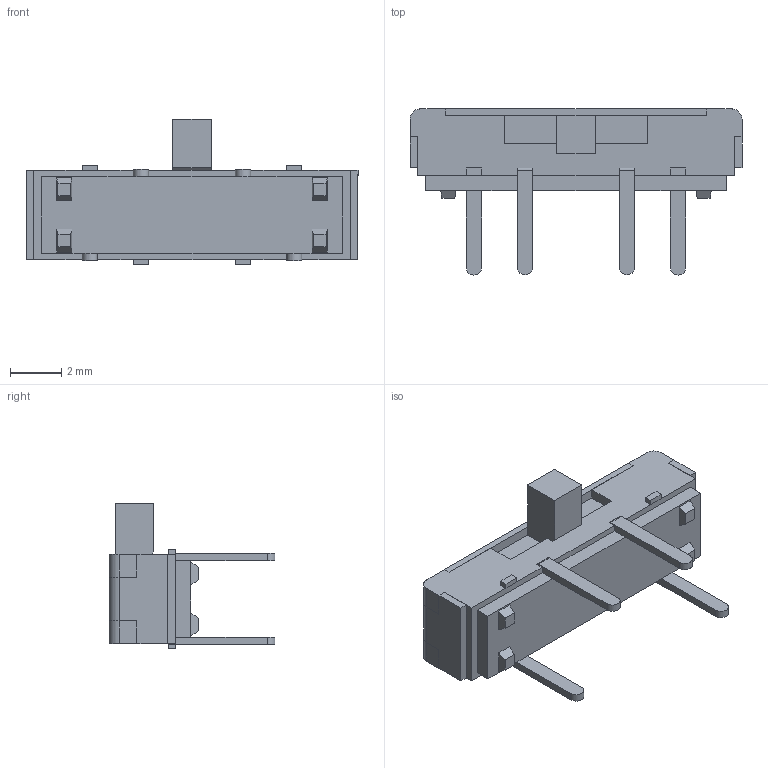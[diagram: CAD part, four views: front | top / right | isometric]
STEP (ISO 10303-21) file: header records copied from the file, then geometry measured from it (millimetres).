
FILE_DESCRIPTION (( 'STEP AP214' ), '1' );
FILE_NAME ('SSSS212200.STEP', '2011-04-07T10:07:28', ( '' ), ( '' ), 'SwSTEP 2.0', 'SolidWorks 2007', '' );
FILE_SCHEMA (( 'AUTOMOTIVE_DESIGN' ));
Length unit declared in the file: millimetre
Products named in the file (1): SSSS212200
Bounding box: 13 x 6.5 x 5.7 mm (x, y, z)
Volume: 144.7 mm3; surface area: 345.7 mm2
Topology: 2 solids, 2 shells, 156 faces, 434 edges, 284 vertices
Faces by surface type: plane 136, cylinder 20
Entity records: 5705 total; most frequent: CARTESIAN_POINT 875, ORIENTED_EDGE 868, DIRECTION 788, EDGE_CURVE 434, VECTOR 394, LINE 394, VERTEX_POINT 284, AXIS2_PLACEMENT_3D 197
